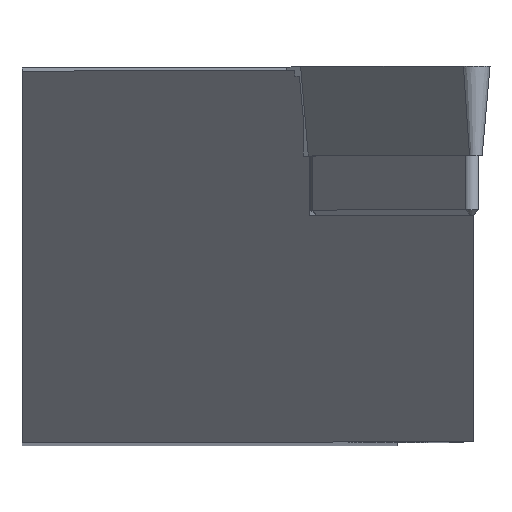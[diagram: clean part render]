
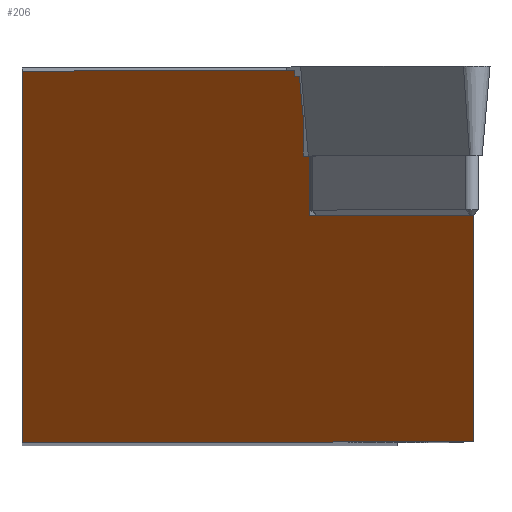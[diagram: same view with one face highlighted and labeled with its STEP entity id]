
A CAD part, top view. The second image highlights one B-rep face of the part: STEP entity #206.
In plain terms, the highlighted planar face has unit normal (-0.788, 0, 0.616).
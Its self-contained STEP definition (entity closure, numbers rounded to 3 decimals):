
#153=ELLIPSE('',#1192,25.988,16.);
#206=ADVANCED_FACE('',(#307),#264,.T.);
#264=PLANE('',#1217);
#307=FACE_OUTER_BOUND('',#361,.T.);
#361=EDGE_LOOP('',(#524,#525,#526,#527,#528,#529,#530,#531,#532,#533,#534,
#535));
#524=ORIENTED_EDGE('',*,*,#877,.F.);
#525=ORIENTED_EDGE('',*,*,#844,.T.);
#526=ORIENTED_EDGE('',*,*,#825,.F.);
#527=ORIENTED_EDGE('',*,*,#822,.F.);
#528=ORIENTED_EDGE('',*,*,#832,.F.);
#529=ORIENTED_EDGE('',*,*,#876,.F.);
#530=ORIENTED_EDGE('',*,*,#865,.F.);
#531=ORIENTED_EDGE('',*,*,#859,.T.);
#532=ORIENTED_EDGE('',*,*,#852,.F.);
#533=ORIENTED_EDGE('',*,*,#850,.T.);
#534=ORIENTED_EDGE('',*,*,#820,.T.);
#535=ORIENTED_EDGE('',*,*,#878,.T.);
#718=VERTEX_POINT('',#1615);
#720=VERTEX_POINT('',#1619);
#722=VERTEX_POINT('',#1624);
#723=VERTEX_POINT('',#1626);
#725=VERTEX_POINT('',#1632);
#731=VERTEX_POINT('',#1645);
#739=VERTEX_POINT('',#1668);
#741=VERTEX_POINT('',#1676);
#743=VERTEX_POINT('',#1683);
#747=VERTEX_POINT('',#1694);
#752=VERTEX_POINT('',#1708);
#757=VERTEX_POINT('',#1732);
#820=EDGE_CURVE('',#718,#720,#967,.T.);
#822=EDGE_CURVE('',#722,#723,#153,.T.);
#825=EDGE_CURVE('',#723,#725,#970,.T.);
#832=EDGE_CURVE('',#731,#722,#976,.T.);
#844=EDGE_CURVE('',#739,#725,#987,.T.);
#850=EDGE_CURVE('',#741,#718,#993,.T.);
#852=EDGE_CURVE('',#741,#743,#995,.T.);
#859=EDGE_CURVE('',#747,#743,#1002,.T.);
#865=EDGE_CURVE('',#747,#752,#1006,.T.);
#876=EDGE_CURVE('',#752,#731,#1015,.T.);
#877=EDGE_CURVE('',#739,#757,#1016,.T.);
#878=EDGE_CURVE('',#720,#757,#1017,.T.);
#967=LINE('',#1620,#1085);
#970=LINE('',#1631,#1088);
#976=LINE('',#1646,#1094);
#987=LINE('',#1667,#1105);
#993=LINE('',#1678,#1111);
#995=LINE('',#1682,#1113);
#1002=LINE('',#1696,#1120);
#1006=LINE('',#1707,#1124);
#1015=LINE('',#1729,#1133);
#1016=LINE('',#1731,#1134);
#1017=LINE('',#1733,#1135);
#1085=VECTOR('',#1308,1.);
#1088=VECTOR('',#1319,1.);
#1094=VECTOR('',#1329,1.);
#1105=VECTOR('',#1346,1.);
#1111=VECTOR('',#1356,1.);
#1113=VECTOR('',#1360,1.);
#1120=VECTOR('',#1371,1.);
#1124=VECTOR('',#1381,1.);
#1133=VECTOR('',#1406,1.);
#1134=VECTOR('',#1409,1.);
#1135=VECTOR('',#1410,1.);
#1192=AXIS2_PLACEMENT_3D('',#1625,#1312,#1313);
#1217=AXIS2_PLACEMENT_3D('',#1734,#1411,#1412);
#1308=DIRECTION('',(-0.093,0.989,-0.119));
#1312=DIRECTION('',(0.788,0.,-0.616));
#1313=DIRECTION('',(0.616,0.,0.788));
#1319=DIRECTION('',(0.,1.,0.));
#1329=DIRECTION('',(-0.616,0.,-0.788));
#1346=DIRECTION('',(-0.616,0.,-0.788));
#1356=DIRECTION('',(0.,1.,0.));
#1360=DIRECTION('',(0.616,0.,0.788));
#1371=DIRECTION('',(0.,1.,0.));
#1381=DIRECTION('',(0.616,0.,0.788));
#1406=DIRECTION('',(0.,-1.,0.));
#1409=DIRECTION('',(0.,-1.,0.));
#1410=DIRECTION('',(-0.616,0.,-0.788));
#1411=DIRECTION('',(-0.788,0.,0.616));
#1412=DIRECTION('',(0.616,0.,0.788));
#1615=CARTESIAN_POINT('',(-10.015,-2.7,-14.098));
#1619=CARTESIAN_POINT('',(-10.221,-0.5,-14.363));
#1620=CARTESIAN_POINT('',(-10.414,1.558,-14.61));
#1624=CARTESIAN_POINT('',(-24.99,-20.,-33.266));
#1625=CARTESIAN_POINT('',(-12.5,-10.,-17.279));
#1626=CARTESIAN_POINT('',(-25.,-19.987,-33.279));
#1631=CARTESIAN_POINT('',(-25.,0.,-33.279));
#1632=CARTESIAN_POINT('',(-25.,-0.2,-33.279));
#1645=CARTESIAN_POINT('',(-0.939,-20.,-2.482));
#1646=CARTESIAN_POINT('',(-33.531,-20.,-44.198));
#1667=CARTESIAN_POINT('',(-9.728,-0.2,-13.732));
#1668=CARTESIAN_POINT('',(-10.464,-0.2,-14.674));
#1676=CARTESIAN_POINT('',(-10.015,-4.76,-14.098));
#1678=CARTESIAN_POINT('',(-10.015,-4.76,-14.098));
#1682=CARTESIAN_POINT('',(-17.085,-4.76,-23.148));
#1683=CARTESIAN_POINT('',(-9.666,-4.76,-13.652));
#1694=CARTESIAN_POINT('',(-9.666,-7.94,-13.652));
#1696=CARTESIAN_POINT('',(-9.666,-7.94,-13.652));
#1707=CARTESIAN_POINT('',(-16.45,-7.94,-22.335));
#1708=CARTESIAN_POINT('',(-0.939,-7.94,-2.482));
#1729=CARTESIAN_POINT('',(-0.939,2.98,-2.482));
#1731=CARTESIAN_POINT('',(-10.464,2.98,-14.674));
#1732=CARTESIAN_POINT('',(-10.464,-0.5,-14.674));
#1733=CARTESIAN_POINT('',(-33.531,-0.5,-44.198));
#1734=CARTESIAN_POINT('',(-33.531,2.98,-44.198));
